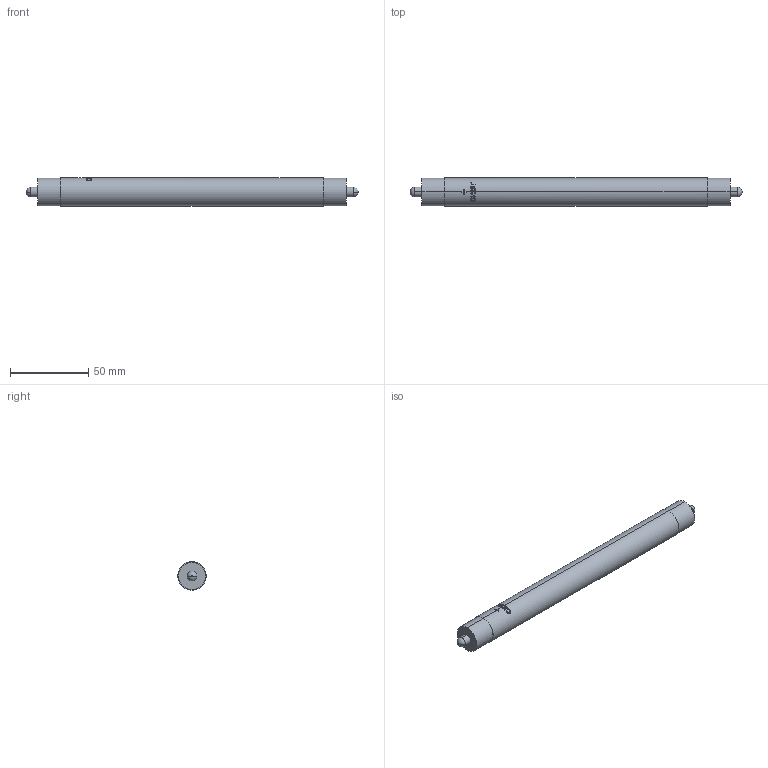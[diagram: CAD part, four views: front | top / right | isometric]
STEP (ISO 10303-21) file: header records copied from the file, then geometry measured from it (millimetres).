
FILE_DESCRIPTION (( 'STEP AP214' ), '1' );
FILE_NAME ('829B6730-DA9D-4D83-807B-5086D1A4ACC1.STEP', '2026-05-08T16:30:56', ( '' ), ( '' ), 'SwSTEP 2.0', 'SolidWorks 2022', '' );
FILE_SCHEMA (( 'AUTOMOTIVE_DESIGN' ));
Length unit declared in the file: millimetre
Products named in the file (1): 829B6730-DA9D-4D83-807B-5086D1A4ACC1
Bounding box: 212.6 x 18.2 x 18.2 mm (x, y, z)
Volume: 51364.8 mm3; surface area: 12023.7 mm2
Topology: 1 solids, 1 shells, 211 faces, 603 edges, 402 vertices
Faces by surface type: cylinder 157, plane 50, torus 4
Entity records: 7343 total; most frequent: CARTESIAN_POINT 2138, ORIENTED_EDGE 1206, DIRECTION 789, EDGE_CURVE 603, VERTEX_POINT 402, B_SPLINE_CURVE_WITH_KNOTS 294, AXIS2_PLACEMENT_3D 281, LINE 227
